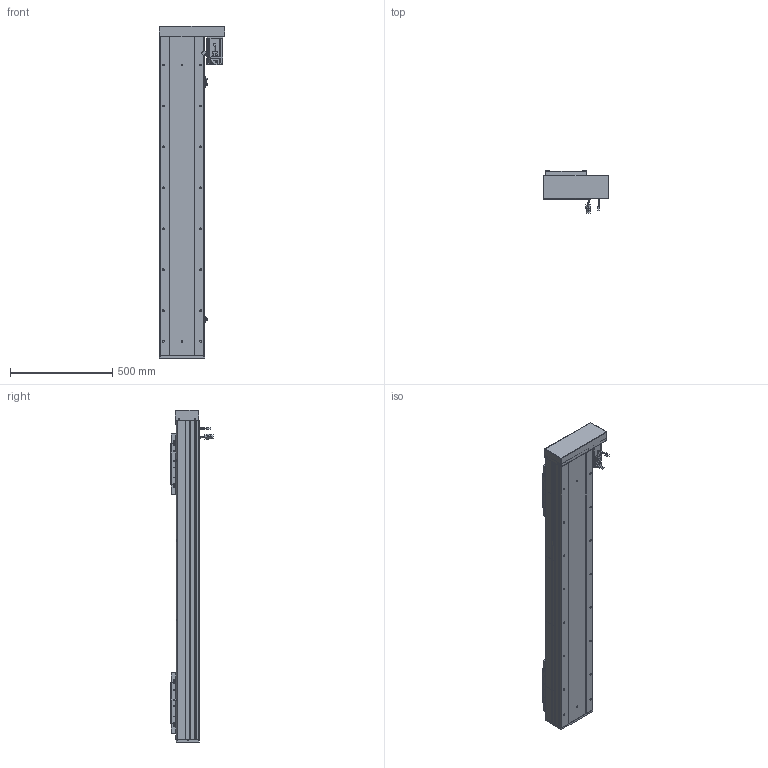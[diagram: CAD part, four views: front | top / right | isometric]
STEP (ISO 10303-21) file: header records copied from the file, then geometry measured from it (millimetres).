
FILE_DESCRIPTION (( 'STEP AP203' ), '1' );
FILE_NAME ('RY220F-L2525-300-RK.SLDASM_1150.step', '2022-07-04T01:35:28', ( '' ), ( '' ), 'SwSTEP 2.0', 'SolidWorks 2016', '' );
FILE_SCHEMA (( 'CONFIG_CONTROL_DESIGN' ));
Length unit declared in the file: millimetre
Products named in the file (15): RY220F-詩湍揤踡輸; RY220左右折电机安装板; RY220F臏賑釱25-32佪裝; 侐源滅袉蝶; RY220F-L2525-300-RK.SLDASM_1150; RY220酘衵殏萇儂欶; RY220F綴裔啣; 滅袉蝶18-24; RY220F-祥凄詩湍-蛌殏-300_1150; 覜茼ん672; RY220F-672覜茼んえ; RY220F蛌殏菁釱-300_1150; 怢湛750W_ECMA-CX0807ES; RY220F-滅鳥奻裔; RY220F-蛌殏奻裔啣-300_1150
Assembly tree (24 placements, depth 2):
  RY220F-L2525-300-RK.SLDASM_1150
    RY220F蛌殏菁釱-300_1150
    RY220F-蛌殏奻裔啣-300_1150  x2
    怢湛750W_ECMA-CX0807ES
    RY220F臏賑釱25-32佪裝  x2
    RY220F-滅鳥奻裔  x2
    滅袉蝶18-24  x3
    RY220F綴裔啣
    RY220F-祥凄詩湍-蛌殏-300_1150
    RY220F-詩湍揤踡輸  x2
    覜茼ん672  x3
    RY220F-672覜茼んえ  x2
    RY220左右折电机安装板
    RY220酘衵殏萇儂欶
    侐源滅袉蝶  x2
Bounding box: 317.5 x 205.27 x 1621 mm (x, y, z)
Volume: 15443397.1 mm3; surface area: 4046757.2 mm2
Topology: 25 solids, 25 shells, 2756 faces, 7500 edges, 4646 vertices
Faces by surface type: cylinder 1242, plane 1044, cone 399, bspline 45, sphere 16, torus 10
Entity records: 68376 total; most frequent: CARTESIAN_POINT 18595, ORIENTED_EDGE 10062, DIRECTION 9772, EDGE_CURVE 5031, AXIS2_PLACEMENT_3D 3474, VERTEX_POINT 3262, LINE 2824, VECTOR 2824
